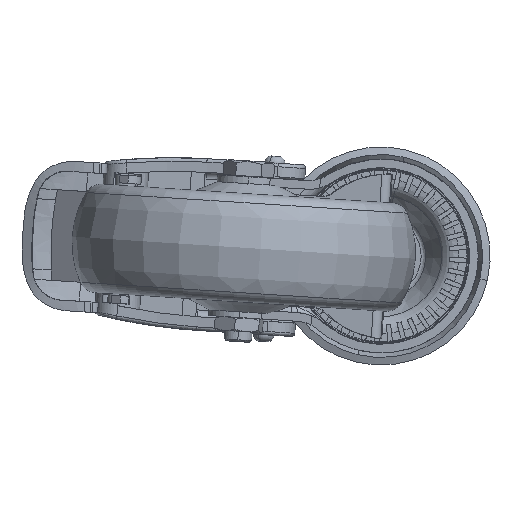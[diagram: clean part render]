
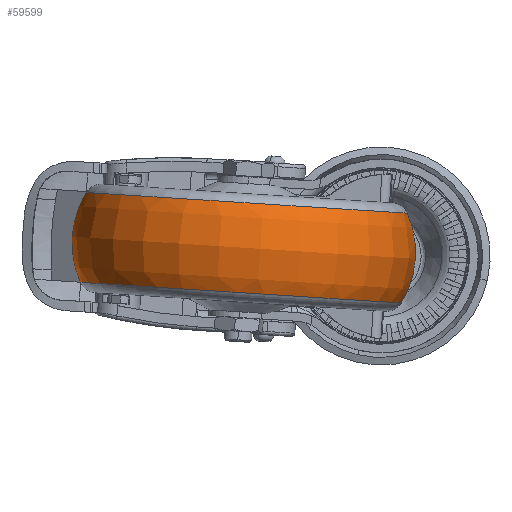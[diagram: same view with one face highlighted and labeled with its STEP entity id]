
A CAD part, front view. The second image highlights one B-rep face of the part: STEP entity #59599.
In plain terms, the highlighted toroidal (fillet/blend) face has major radius 22 mm and minor radius 28 mm.
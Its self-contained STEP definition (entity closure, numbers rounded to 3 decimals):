
#2215 = CIRCLE ( 'NONE', #2221, 46.753 ) ;
#2221 = AXIS2_PLACEMENT_3D ( 'NONE', #46312, #46314, #46316 ) ;
#2287 = AXIS2_PLACEMENT_3D ( 'NONE', #48932, #48933, #48934 ) ;
#2308 = CIRCLE ( 'NONE', #2287, 28. ) ;
#2313 = AXIS2_PLACEMENT_3D ( 'NONE', #48928, #48929, #48930 ) ;
#2315 = CIRCLE ( 'NONE', #2313, 28. ) ;
#2326 = AXIS2_PLACEMENT_3D ( 'NONE', #48939, #48940, #48941 ) ;
#2328 = CIRCLE ( 'NONE', #2326, 46.753 ) ;
#14201 = VERTEX_POINT ( 'NONE', #21469 ) ;
#14205 = VERTEX_POINT ( 'NONE', #21472 ) ;
#14215 = VERTEX_POINT ( 'NONE', #21482 ) ;
#14224 = VERTEX_POINT ( 'NONE', #21491 ) ;
#21469 = CARTESIAN_POINT ( 'NONE',  ( 145.99, -56.267, 146.89 ) ) ;
#21472 = CARTESIAN_POINT ( 'NONE',  ( 51.019, -54.099, 126.783 ) ) ;
#21482 = CARTESIAN_POINT ( 'NONE',  ( 52.703, -54.099, 152.903 ) ) ;
#21491 = CARTESIAN_POINT ( 'NONE',  ( 144.306, -56.267, 120.769 ) ) ;
#23131 = TOROIDAL_SURFACE ( 'NONE', #23144, 22., 28. ) ;
#23144 = AXIS2_PLACEMENT_3D ( 'NONE', #53084, #53081, #53087 ) ;
#32499 = EDGE_LOOP ( 'NONE', ( #69757, #69758, #69759, #69760 ) ) ;
#46312 = CARTESIAN_POINT ( 'NONE',  ( 99.346, -55.183, 149.897 ) ) ;
#46314 = DIRECTION ( 'NONE',  ( -0.064, 0., -0.998 ) ) ;
#46316 = DIRECTION ( 'NONE',  ( -0.998, 0.023, 0.064 ) ) ;
#48928 = CARTESIAN_POINT ( 'NONE',  ( 120.453, -55.693, 135.421 ) ) ;
#48929 = DIRECTION ( 'NONE',  ( 0.023, 1., -0.001 ) ) ;
#48930 = DIRECTION ( 'NONE',  ( -1., 0.023, 0. ) ) ;
#48932 = CARTESIAN_POINT ( 'NONE',  ( 76.556, -54.673, 138.251 ) ) ;
#48933 = DIRECTION ( 'NONE',  ( -0.023, -1., 0.001 ) ) ;
#48934 = DIRECTION ( 'NONE',  ( 1., -0.023, 0. ) ) ;
#48939 = CARTESIAN_POINT ( 'NONE',  ( 97.663, -55.183, 123.776 ) ) ;
#48940 = DIRECTION ( 'NONE',  ( -0.064, 0., -0.998 ) ) ;
#48941 = DIRECTION ( 'NONE',  ( -0.998, 0.023, 0.064 ) ) ;
#53081 = DIRECTION ( 'NONE',  ( -0.064, 0., -0.998 ) ) ;
#53082 = FACE_OUTER_BOUND ( 'NONE', #32499, .T. ) ;
#53084 = CARTESIAN_POINT ( 'NONE',  ( 98.504, -55.183, 136.836 ) ) ;
#53087 = DIRECTION ( 'NONE',  ( -0.998, 0.023, 0.064 ) ) ;
#59599 = ADVANCED_FACE ( 'NONE', ( #53082 ), #23131, .T. ) ;
#64295 = EDGE_CURVE ( 'NONE', #14201, #14215, #2215, .T. ) ;
#64321 = EDGE_CURVE ( 'NONE', #14201, #14224, #2315, .T. ) ;
#64322 = EDGE_CURVE ( 'NONE', #14215, #14205, #2308, .T. ) ;
#64324 = EDGE_CURVE ( 'NONE', #14224, #14205, #2328, .T. ) ;
#69757 = ORIENTED_EDGE ( 'NONE', *, *, #64321, .F. ) ;
#69758 = ORIENTED_EDGE ( 'NONE', *, *, #64295, .T. ) ;
#69759 = ORIENTED_EDGE ( 'NONE', *, *, #64322, .T. ) ;
#69760 = ORIENTED_EDGE ( 'NONE', *, *, #64324, .F. ) ;
